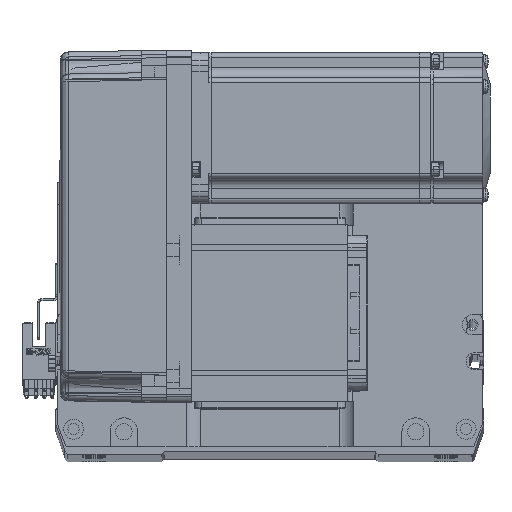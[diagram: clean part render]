
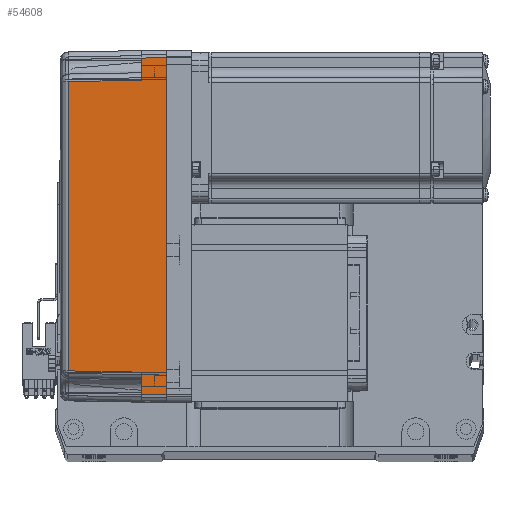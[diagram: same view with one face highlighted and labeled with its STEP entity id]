
A CAD part, top view. The second image highlights one B-rep face of the part: STEP entity #54608.
In plain terms, the highlighted planar face has unit normal (-0.018, 0, 1) as drawn and (0, 1, 0.017) by its records, which use the part's own axes.
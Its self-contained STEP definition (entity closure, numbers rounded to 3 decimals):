
#180 = CARTESIAN_POINT ( 'NONE',  ( -57.495, 35.32, 38.985 ) ) ;
#1035 = VERTEX_POINT ( 'NONE', #180 ) ;
#1118 = DIRECTION ( 'NONE',  ( 0., 1., 0.017 ) ) ;
#2319 = DIRECTION ( 'NONE',  ( 1., 0., 0. ) ) ;
#2936 = ORIENTED_EDGE ( 'NONE', *, *, #64958, .T. ) ;
#4061 = ORIENTED_EDGE ( 'NONE', *, *, #25593, .F. ) ;
#4797 = VECTOR ( 'NONE', #17892, 1000. ) ;
#5786 = CARTESIAN_POINT ( 'NONE',  ( -57.495, 35.32, 38.985 ) ) ;
#5891 = CARTESIAN_POINT ( 'NONE',  ( -66.826, 35.825, 10. ) ) ;
#6258 = DIRECTION ( 'NONE',  ( 0., -0.017, 1. ) ) ;
#7536 = LINE ( 'NONE', #20082, #10734 ) ;
#8234 = EDGE_CURVE ( 'NONE', #39251, #61898, #27435, .T. ) ;
#9156 = VERTEX_POINT ( 'NONE', #22015 ) ;
#9405 = ORIENTED_EDGE ( 'NONE', *, *, #20889, .T. ) ;
#10734 = VECTOR ( 'NONE', #24981, 1000. ) ;
#10901 = CARTESIAN_POINT ( 'NONE',  ( 66.826, 35.825, 10. ) ) ;
#11574 = CARTESIAN_POINT ( 'NONE',  ( 58., 35.825, 10. ) ) ;
#12235 = VECTOR ( 'NONE', #33085, 1000. ) ;
#12513 = CARTESIAN_POINT ( 'NONE',  ( -19.165, 35.316, 39.181 ) ) ;
#12579 = CARTESIAN_POINT ( 'NONE',  ( 70., 35.825, 10. ) ) ;
#13452 = VECTOR ( 'NONE', #43505, 1000. ) ;
#17421 = LINE ( 'NONE', #18731, #13452 ) ;
#17608 = CARTESIAN_POINT ( 'NONE',  ( 70., 35.825, 10. ) ) ;
#17892 = DIRECTION ( 'NONE',  ( 0.017, -0.017, 1. ) ) ;
#18731 = CARTESIAN_POINT ( 'NONE',  ( 67.001, 36.001, -0.052 ) ) ;
#20082 = CARTESIAN_POINT ( 'NONE',  ( 57.495, 35.32, 38.985 ) ) ;
#20148 = CARTESIAN_POINT ( 'NONE',  ( 57.495, 35.32, 38.985 ) ) ;
#20889 = EDGE_CURVE ( 'NONE', #1035, #30338, #62830, .T. ) ;
#22015 = CARTESIAN_POINT ( 'NONE',  ( 67., 36., 0. ) ) ;
#22660 = VECTOR ( 'NONE', #33887, 1000. ) ;
#22734 = ORIENTED_EDGE ( 'NONE', *, *, #59316, .T. ) ;
#24981 = DIRECTION ( 'NONE',  ( 0.017, 0.017, -1. ) ) ;
#25019 = FACE_OUTER_BOUND ( 'NONE', #57019, .T. ) ;
#25593 = EDGE_CURVE ( 'NONE', #9156, #30020, #17421, .T. ) ;
#25902 = ORIENTED_EDGE ( 'NONE', *, *, #8234, .T. ) ;
#26514 = CARTESIAN_POINT ( 'NONE',  ( 70., 36., 0. ) ) ;
#27433 = VECTOR ( 'NONE', #38339, 1000. ) ;
#27435 = LINE ( 'NONE', #12579, #12235 ) ;
#28650 = EDGE_CURVE ( 'NONE', #33815, #30020, #30645, .T. ) ;
#28657 = EDGE_CURVE ( 'NONE', #61898, #1035, #37837, .T. ) ;
#30020 = VERTEX_POINT ( 'NONE', #10901 ) ;
#30338 = VERTEX_POINT ( 'NONE', #20148 ) ;
#30645 = LINE ( 'NONE', #17608, #22660 ) ;
#32675 = AXIS2_PLACEMENT_3D ( 'NONE', #26514, #1118, #6258 ) ;
#33085 = DIRECTION ( 'NONE',  ( 1., 0., 0. ) ) ;
#33815 = VERTEX_POINT ( 'NONE', #11574 ) ;
#33887 = DIRECTION ( 'NONE',  ( 1., 0., 0. ) ) ;
#37837 = LINE ( 'NONE', #43475, #27433 ) ;
#38339 = DIRECTION ( 'NONE',  ( 0.017, -0.017, 1. ) ) ;
#39251 = VERTEX_POINT ( 'NONE', #5891 ) ;
#40916 = ORIENTED_EDGE ( 'NONE', *, *, #28650, .T. ) ;
#41998 = PLANE ( 'NONE',  #32675 ) ;
#43475 = CARTESIAN_POINT ( 'NONE',  ( -58., 35.825, 10. ) ) ;
#43505 = DIRECTION ( 'NONE',  ( -0.017, -0.017, 1. ) ) ;
#46451 = VERTEX_POINT ( 'NONE', #58381 ) ;
#47507 = CARTESIAN_POINT ( 'NONE',  ( 57.495, 35.32, 38.985 ) ) ;
#48813 = EDGE_CURVE ( 'NONE', #46451, #9156, #65696, .T. ) ;
#49733 = ORIENTED_EDGE ( 'NONE', *, *, #28657, .T. ) ;
#53373 = CARTESIAN_POINT ( 'NONE',  ( -67., 36., 0. ) ) ;
#53859 = CARTESIAN_POINT ( 'NONE',  ( 0., 36., 0. ) ) ;
#54608 = ADVANCED_FACE ( 'NONE', ( #25019 ), #41998, .T. ) ;
#57019 = EDGE_LOOP ( 'NONE', ( #22734, #25902, #49733, #9405, #2936, #40916, #4061, #60151 ) ) ;
#58037 = CARTESIAN_POINT ( 'NONE',  ( 19.165, 35.316, 39.181 ) ) ;
#58381 = CARTESIAN_POINT ( 'NONE',  ( -67., 36., 0. ) ) ;
#59316 = EDGE_CURVE ( 'NONE', #46451, #39251, #60686, .T. ) ;
#60151 = ORIENTED_EDGE ( 'NONE', *, *, #48813, .F. ) ;
#60686 = LINE ( 'NONE', #53373, #4797 ) ;
#61898 = VERTEX_POINT ( 'NONE', #65805 ) ;
#62830 = B_SPLINE_CURVE_WITH_KNOTS ( 'NONE', 3,
 ( #5786, #12513, #58037, #47507 ),
 .UNSPECIFIED., .F., .F.,
 ( 4, 4 ),
 ( 0., 1. ),
 .UNSPECIFIED. ) ;
#63339 = VECTOR ( 'NONE', #2319, 1000. ) ;
#64958 = EDGE_CURVE ( 'NONE', #30338, #33815, #7536, .T. ) ;
#65696 = LINE ( 'NONE', #53859, #63339 ) ;
#65805 = CARTESIAN_POINT ( 'NONE',  ( -58., 35.825, 10. ) ) ;
